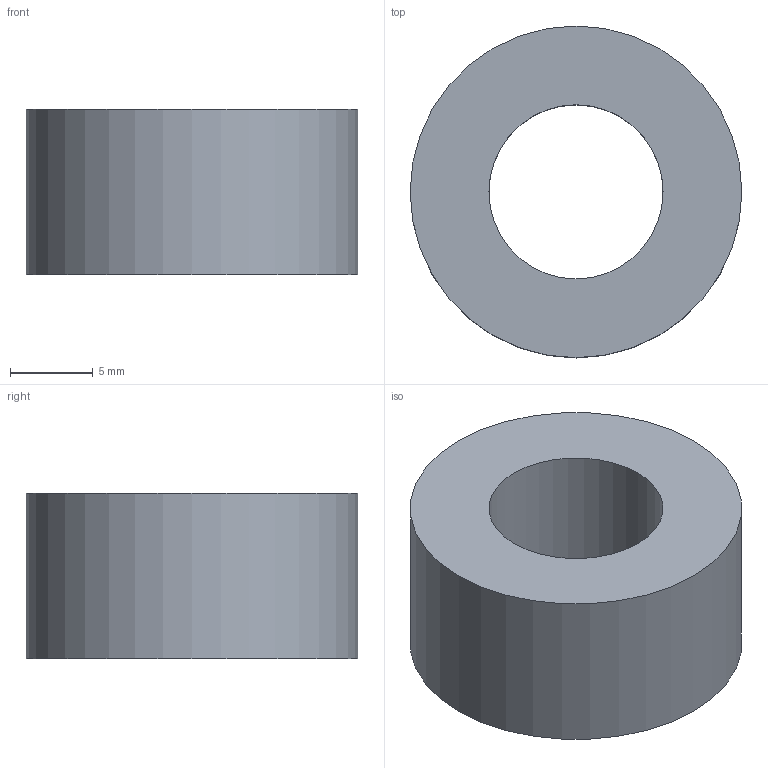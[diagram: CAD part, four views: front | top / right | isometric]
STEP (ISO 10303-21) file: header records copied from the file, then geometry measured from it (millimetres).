
FILE_DESCRIPTION( ( 'Unknown' ), '1' );
FILE_NAME( 'F:/navkite transat/construction/2016/3D ET ASSEMBLAGES/desal/DES 17.stp', 'Unknown', ( 'GMA' ), ( 'Unknown' ), 'XStep 1.0', 'Unknown', ' ' );
FILE_SCHEMA( ( 'automotive_design' ) );
Length unit declared in the file: millimetre
Products named in the file (1): 1
Bounding box: 20 x 20 x 10 mm (x, y, z)
Volume: 2275.7 mm3; surface area: 1413.3 mm2
Topology: 1 solids, 1 shells, 4 faces, 6 edges, 4 vertices
Faces by surface type: cylinder 2, plane 2
Full cylindrical faces by diameter (mm): 10.5 x1, 20 x1
Entity records: 136 total; most frequent: DIRECTION 18, CARTESIAN_POINT 13, AXIS2_PLACEMENT_3D 9, EDGE_LOOP 8, ORIENTED_EDGE 8, FACE_OUTER_BOUND 6, STYLED_ITEM 4, PRESENTATION_STYLE_ASSIGNMENT 4
